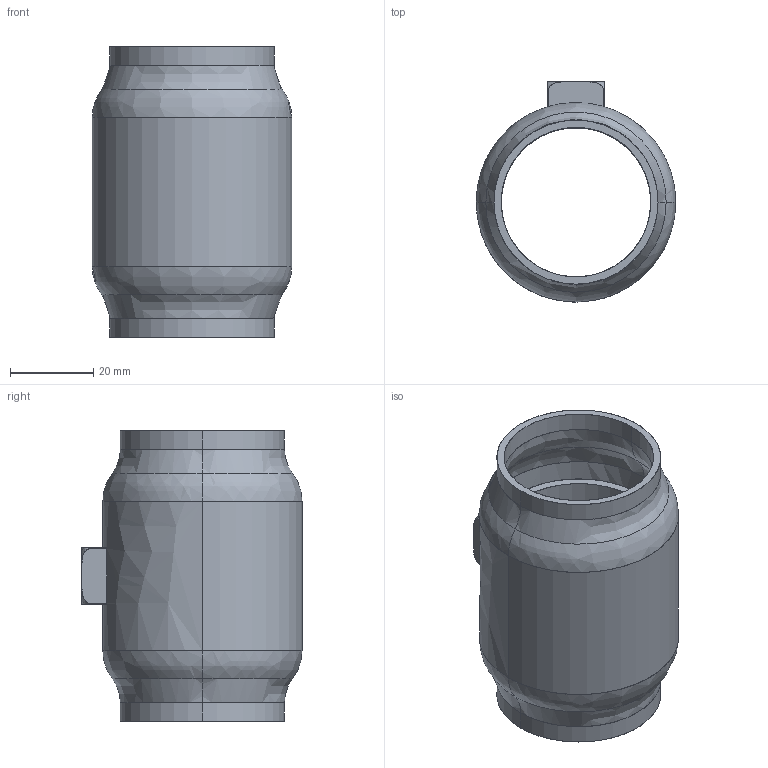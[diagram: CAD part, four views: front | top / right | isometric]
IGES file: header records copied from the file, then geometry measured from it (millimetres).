
Start section: SolidWorks IGES file using analytic representation for surfaces
Global section: file name: C:\HEMSIDA\cad\SLDPRT_2010\wn600\\wn600-35.igs; native system: SolidWorks 2010; preprocessor: SolidWorks 2010; author: Administrator; date: 101214.114953; units: millimetre
Bounding box: 48 x 53 x 70 mm (x, y, z)
Surface area: 27880.8 mm2 (no closed solid volume)
Topology: 0 solids, 0 shells, 56 faces, 1052 edges, 1052 vertices
Faces by surface type: bspline 29, revolution 27
